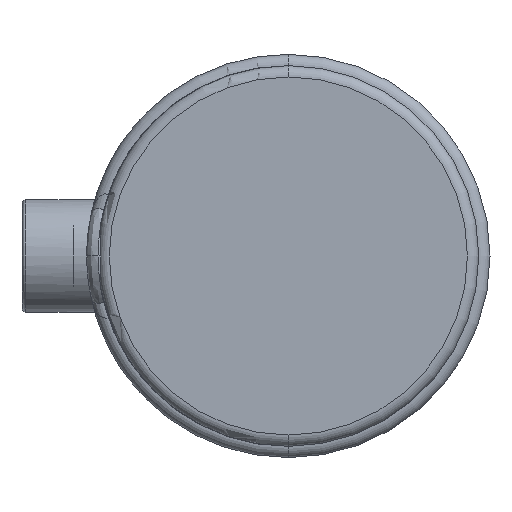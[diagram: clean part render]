
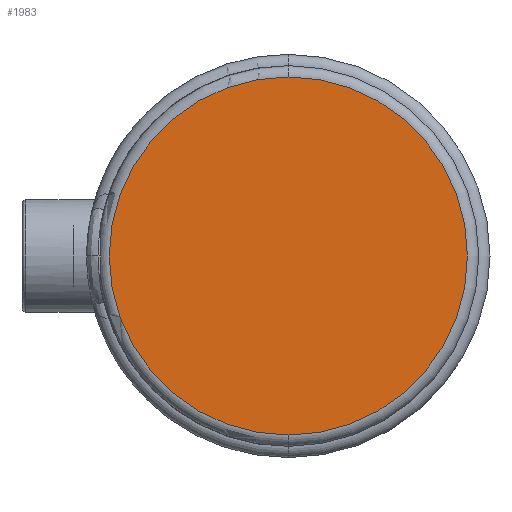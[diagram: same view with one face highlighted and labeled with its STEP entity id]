
A CAD part, left-side view. The second image highlights one B-rep face of the part: STEP entity #1983.
In plain terms, the highlighted planar face has unit normal (-1, 0, 0).
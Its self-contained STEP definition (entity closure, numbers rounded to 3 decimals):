
#156 = CARTESIAN_POINT ( 'NONE',  ( 0., 0., 0. ) ) ;
#632 = DIRECTION ( 'NONE',  ( 0., 0., 1. ) ) ;
#799 = CARTESIAN_POINT ( 'NONE',  ( 0., 0., -47.6 ) ) ;
#891 = PLANE ( 'NONE',  #1771 ) ;
#1131 = CIRCLE ( 'NONE', #4012, 47.6 ) ;
#1337 = DIRECTION ( 'NONE',  ( 0., 0., 1. ) ) ;
#1771 = AXIS2_PLACEMENT_3D ( 'NONE', #1773, #4148, #1337 ) ;
#1773 = CARTESIAN_POINT ( 'NONE',  ( 0., 0., 0. ) ) ;
#1983 = ADVANCED_FACE ( 'NONE', ( #1998 ), #891, .T. ) ;
#1998 = FACE_OUTER_BOUND ( 'NONE', #2196, .T. ) ;
#2196 = EDGE_LOOP ( 'NONE', ( #3270, #5837 ) ) ;
#2215 = DIRECTION ( 'NONE',  ( -1., 0., 0. ) ) ;
#2622 = EDGE_CURVE ( 'NONE', #4828, #5298, #3314, .T. ) ;
#3035 = CARTESIAN_POINT ( 'NONE',  ( 0., 0., 47.6 ) ) ;
#3270 = ORIENTED_EDGE ( 'NONE', *, *, #4897, .T. ) ;
#3314 = CIRCLE ( 'NONE', #4778, 47.6 ) ;
#3420 = DIRECTION ( 'NONE',  ( -1., 0., 0. ) ) ;
#4012 = AXIS2_PLACEMENT_3D ( 'NONE', #5010, #2215, #5474 ) ;
#4148 = DIRECTION ( 'NONE',  ( -1., 0., 0. ) ) ;
#4778 = AXIS2_PLACEMENT_3D ( 'NONE', #156, #3420, #632 ) ;
#4828 = VERTEX_POINT ( 'NONE', #799 ) ;
#4897 = EDGE_CURVE ( 'NONE', #5298, #4828, #1131, .T. ) ;
#5010 = CARTESIAN_POINT ( 'NONE',  ( 0., 0., 0. ) ) ;
#5298 = VERTEX_POINT ( 'NONE', #3035 ) ;
#5474 = DIRECTION ( 'NONE',  ( 0., 0., 1. ) ) ;
#5837 = ORIENTED_EDGE ( 'NONE', *, *, #2622, .T. ) ;
